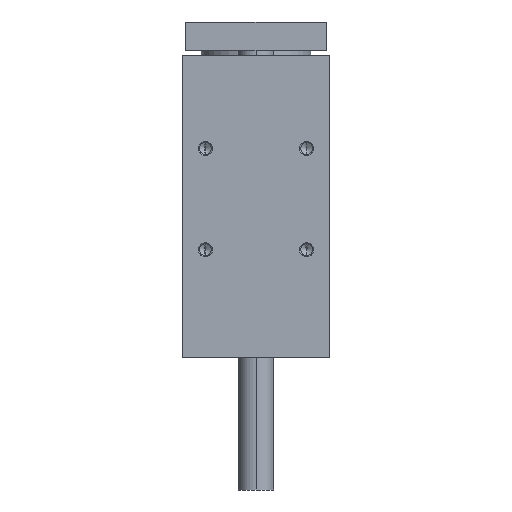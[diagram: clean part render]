
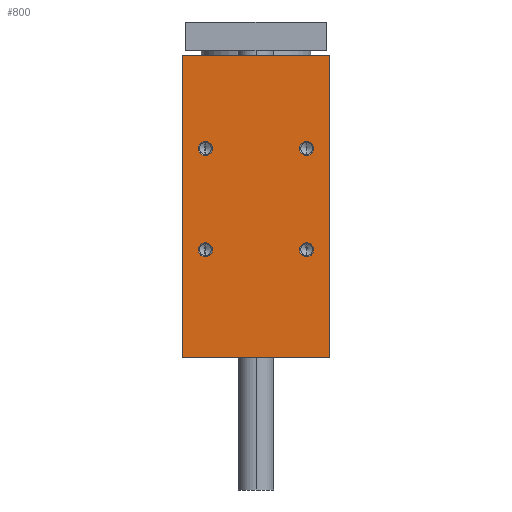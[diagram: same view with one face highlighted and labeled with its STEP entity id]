
A CAD part, left-side view. The second image highlights one B-rep face of the part: STEP entity #800.
In plain terms, the highlighted planar face has unit normal (-1, 0, 0).
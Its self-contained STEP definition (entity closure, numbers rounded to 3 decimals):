
#318 = ORIENTED_EDGE ( 'NONE', *, *, #4021, .T. ) ;
#332 = AXIS2_PLACEMENT_3D ( 'NONE', #5329, #8292, #1615 ) ;
#366 = ORIENTED_EDGE ( 'NONE', *, *, #6917, .F. ) ;
#422 = AXIS2_PLACEMENT_3D ( 'NONE', #1477, #3872, #949 ) ;
#445 = CARTESIAN_POINT ( 'NONE',  ( -94.5, 52.5, -128. ) ) ;
#487 = CIRCLE ( 'NONE', #7164, 5. ) ;
#490 = LINE ( 'NONE', #3443, #1904 ) ;
#517 = DIRECTION ( 'NONE',  ( 0., -1., 0. ) ) ;
#518 = CARTESIAN_POINT ( 'NONE',  ( -94.5, -36., 16. ) ) ;
#560 = CARTESIAN_POINT ( 'NONE',  ( -94.5, 52.5, 87. ) ) ;
#701 = DIRECTION ( 'NONE',  ( 1., 0., 0. ) ) ;
#771 = CARTESIAN_POINT ( 'NONE',  ( -94.5, -36., -46. ) ) ;
#800 = ADVANCED_FACE ( 'NONE', ( #8520, #8615, #1848, #6330, #7106 ), #7688, .F. ) ;
#914 = ORIENTED_EDGE ( 'NONE', *, *, #2964, .T. ) ;
#947 = DIRECTION ( 'NONE',  ( 1., 0., 0. ) ) ;
#949 = DIRECTION ( 'NONE',  ( 0., 0., -1. ) ) ;
#1144 = EDGE_LOOP ( 'NONE', ( #318, #366, #7000, #1949 ) ) ;
#1477 = CARTESIAN_POINT ( 'NONE',  ( -94.5, 36., -51. ) ) ;
#1485 = ORIENTED_EDGE ( 'NONE', *, *, #8444, .T. ) ;
#1615 = DIRECTION ( 'NONE',  ( 0., 0., -1. ) ) ;
#1682 = VERTEX_POINT ( 'NONE', #8727 ) ;
#1786 = AXIS2_PLACEMENT_3D ( 'NONE', #7612, #947, #3916 ) ;
#1790 = DIRECTION ( 'NONE',  ( 0., 0., 1. ) ) ;
#1825 = LINE ( 'NONE', #4806, #7755 ) ;
#1848 = FACE_BOUND ( 'NONE', #3794, .T. ) ;
#1895 = EDGE_LOOP ( 'NONE', ( #914, #5595 ) ) ;
#1904 = VECTOR ( 'NONE', #1790, 1000. ) ;
#1949 = ORIENTED_EDGE ( 'NONE', *, *, #6818, .T. ) ;
#1980 = CARTESIAN_POINT ( 'NONE',  ( -94.5, 36., 26. ) ) ;
#2097 = CIRCLE ( 'NONE', #1786, 5. ) ;
#2351 = DIRECTION ( 'NONE',  ( 1., 0., 0. ) ) ;
#2446 = DIRECTION ( 'NONE',  ( 0., 0., -1. ) ) ;
#2492 = CARTESIAN_POINT ( 'NONE',  ( -94.5, -36., 21. ) ) ;
#2560 = DIRECTION ( 'NONE',  ( 1., 0., 0. ) ) ;
#2698 = CARTESIAN_POINT ( 'NONE',  ( -94.5, -36., -56. ) ) ;
#2947 = EDGE_CURVE ( 'NONE', #3923, #4525, #487, .T. ) ;
#2964 = EDGE_CURVE ( 'NONE', #6181, #4608, #3741, .T. ) ;
#3064 = EDGE_LOOP ( 'NONE', ( #6352, #9332 ) ) ;
#3115 = CARTESIAN_POINT ( 'NONE',  ( -94.5, -52.5, -128. ) ) ;
#3289 = EDGE_LOOP ( 'NONE', ( #7479, #4519 ) ) ;
#3402 = DIRECTION ( 'NONE',  ( 1., 0., 0. ) ) ;
#3434 = VERTEX_POINT ( 'NONE', #7687 ) ;
#3443 = CARTESIAN_POINT ( 'NONE',  ( -94.5, 52.5, -128. ) ) ;
#3527 = EDGE_CURVE ( 'NONE', #1682, #4788, #490, .T. ) ;
#3566 = EDGE_CURVE ( 'NONE', #4590, #5824, #5649, .T. ) ;
#3689 = CIRCLE ( 'NONE', #8847, 5. ) ;
#3733 = VERTEX_POINT ( 'NONE', #7759 ) ;
#3741 = CIRCLE ( 'NONE', #332, 5. ) ;
#3794 = EDGE_LOOP ( 'NONE', ( #3848, #1485 ) ) ;
#3848 = ORIENTED_EDGE ( 'NONE', *, *, #2947, .T. ) ;
#3859 = DIRECTION ( 'NONE',  ( 1., 0., 0. ) ) ;
#3872 = DIRECTION ( 'NONE',  ( 1., 0., 0. ) ) ;
#3916 = DIRECTION ( 'NONE',  ( 0., 0., -1. ) ) ;
#3923 = VERTEX_POINT ( 'NONE', #8726 ) ;
#4021 = EDGE_CURVE ( 'NONE', #3733, #3434, #5172, .T. ) ;
#4257 = CIRCLE ( 'NONE', #8143, 5. ) ;
#4519 = ORIENTED_EDGE ( 'NONE', *, *, #3566, .T. ) ;
#4525 = VERTEX_POINT ( 'NONE', #7082 ) ;
#4558 = EDGE_CURVE ( 'NONE', #4608, #6181, #4257, .T. ) ;
#4590 = VERTEX_POINT ( 'NONE', #518 ) ;
#4608 = VERTEX_POINT ( 'NONE', #2698 ) ;
#4754 = CARTESIAN_POINT ( 'NONE',  ( -94.5, -36., -51. ) ) ;
#4788 = VERTEX_POINT ( 'NONE', #5143 ) ;
#4806 = CARTESIAN_POINT ( 'NONE',  ( -94.5, 52.5, -128. ) ) ;
#4938 = EDGE_CURVE ( 'NONE', #7833, #7910, #2097, .T. ) ;
#5014 = CIRCLE ( 'NONE', #8592, 5. ) ;
#5143 = CARTESIAN_POINT ( 'NONE',  ( -94.5, 52.5, 87. ) ) ;
#5172 = LINE ( 'NONE', #3115, #6040 ) ;
#5329 = CARTESIAN_POINT ( 'NONE',  ( -94.5, -36., -51. ) ) ;
#5535 = DIRECTION ( 'NONE',  ( 0., 0., -1. ) ) ;
#5595 = ORIENTED_EDGE ( 'NONE', *, *, #4558, .T. ) ;
#5649 = CIRCLE ( 'NONE', #8908, 5. ) ;
#5824 = VERTEX_POINT ( 'NONE', #9474 ) ;
#6040 = VECTOR ( 'NONE', #8136, 1000. ) ;
#6068 = DIRECTION ( 'NONE',  ( 0., -1., 0. ) ) ;
#6144 = CARTESIAN_POINT ( 'NONE',  ( -94.5, 36., -51. ) ) ;
#6181 = VERTEX_POINT ( 'NONE', #771 ) ;
#6234 = DIRECTION ( 'NONE',  ( 0., 1., 0. ) ) ;
#6324 = CIRCLE ( 'NONE', #422, 5. ) ;
#6330 = FACE_BOUND ( 'NONE', #3289, .T. ) ;
#6352 = ORIENTED_EDGE ( 'NONE', *, *, #4938, .T. ) ;
#6438 = DIRECTION ( 'NONE',  ( 0., 0., -1. ) ) ;
#6645 = CARTESIAN_POINT ( 'NONE',  ( -94.5, -36., 21. ) ) ;
#6688 = AXIS2_PLACEMENT_3D ( 'NONE', #445, #3402, #6234 ) ;
#6818 = EDGE_CURVE ( 'NONE', #1682, #3733, #1825, .T. ) ;
#6917 = EDGE_CURVE ( 'NONE', #4788, #3434, #7864, .T. ) ;
#7000 = ORIENTED_EDGE ( 'NONE', *, *, #3527, .F. ) ;
#7082 = CARTESIAN_POINT ( 'NONE',  ( -94.5, 36., -56. ) ) ;
#7106 = FACE_BOUND ( 'NONE', #3064, .T. ) ;
#7164 = AXIS2_PLACEMENT_3D ( 'NONE', #6144, #2351, #2446 ) ;
#7232 = EDGE_CURVE ( 'NONE', #7910, #7833, #3689, .T. ) ;
#7330 = DIRECTION ( 'NONE',  ( 0., 0., -1. ) ) ;
#7479 = ORIENTED_EDGE ( 'NONE', *, *, #9570, .T. ) ;
#7612 = CARTESIAN_POINT ( 'NONE',  ( -94.5, 36., 21. ) ) ;
#7687 = CARTESIAN_POINT ( 'NONE',  ( -94.5, -52.5, 87. ) ) ;
#7688 = PLANE ( 'NONE',  #6688 ) ;
#7755 = VECTOR ( 'NONE', #6068, 1000. ) ;
#7759 = CARTESIAN_POINT ( 'NONE',  ( -94.5, -52.5, -128. ) ) ;
#7833 = VERTEX_POINT ( 'NONE', #1980 ) ;
#7864 = LINE ( 'NONE', #560, #9145 ) ;
#7910 = VERTEX_POINT ( 'NONE', #8515 ) ;
#8136 = DIRECTION ( 'NONE',  ( 0., 0., 1. ) ) ;
#8143 = AXIS2_PLACEMENT_3D ( 'NONE', #4754, #2560, #5535 ) ;
#8292 = DIRECTION ( 'NONE',  ( 1., 0., 0. ) ) ;
#8444 = EDGE_CURVE ( 'NONE', #4525, #3923, #6324, .T. ) ;
#8515 = CARTESIAN_POINT ( 'NONE',  ( -94.5, 36., 16. ) ) ;
#8520 = FACE_OUTER_BOUND ( 'NONE', #1144, .T. ) ;
#8592 = AXIS2_PLACEMENT_3D ( 'NONE', #6645, #701, #7330 ) ;
#8615 = FACE_BOUND ( 'NONE', #1895, .T. ) ;
#8726 = CARTESIAN_POINT ( 'NONE',  ( -94.5, 36., -46. ) ) ;
#8727 = CARTESIAN_POINT ( 'NONE',  ( -94.5, 52.5, -128. ) ) ;
#8847 = AXIS2_PLACEMENT_3D ( 'NONE', #9365, #9408, #6438 ) ;
#8908 = AXIS2_PLACEMENT_3D ( 'NONE', #2492, #3859, #9023 ) ;
#9023 = DIRECTION ( 'NONE',  ( 0., 0., -1. ) ) ;
#9145 = VECTOR ( 'NONE', #517, 1000. ) ;
#9332 = ORIENTED_EDGE ( 'NONE', *, *, #7232, .T. ) ;
#9365 = CARTESIAN_POINT ( 'NONE',  ( -94.5, 36., 21. ) ) ;
#9408 = DIRECTION ( 'NONE',  ( 1., 0., 0. ) ) ;
#9474 = CARTESIAN_POINT ( 'NONE',  ( -94.5, -36., 26. ) ) ;
#9570 = EDGE_CURVE ( 'NONE', #5824, #4590, #5014, .T. ) ;
